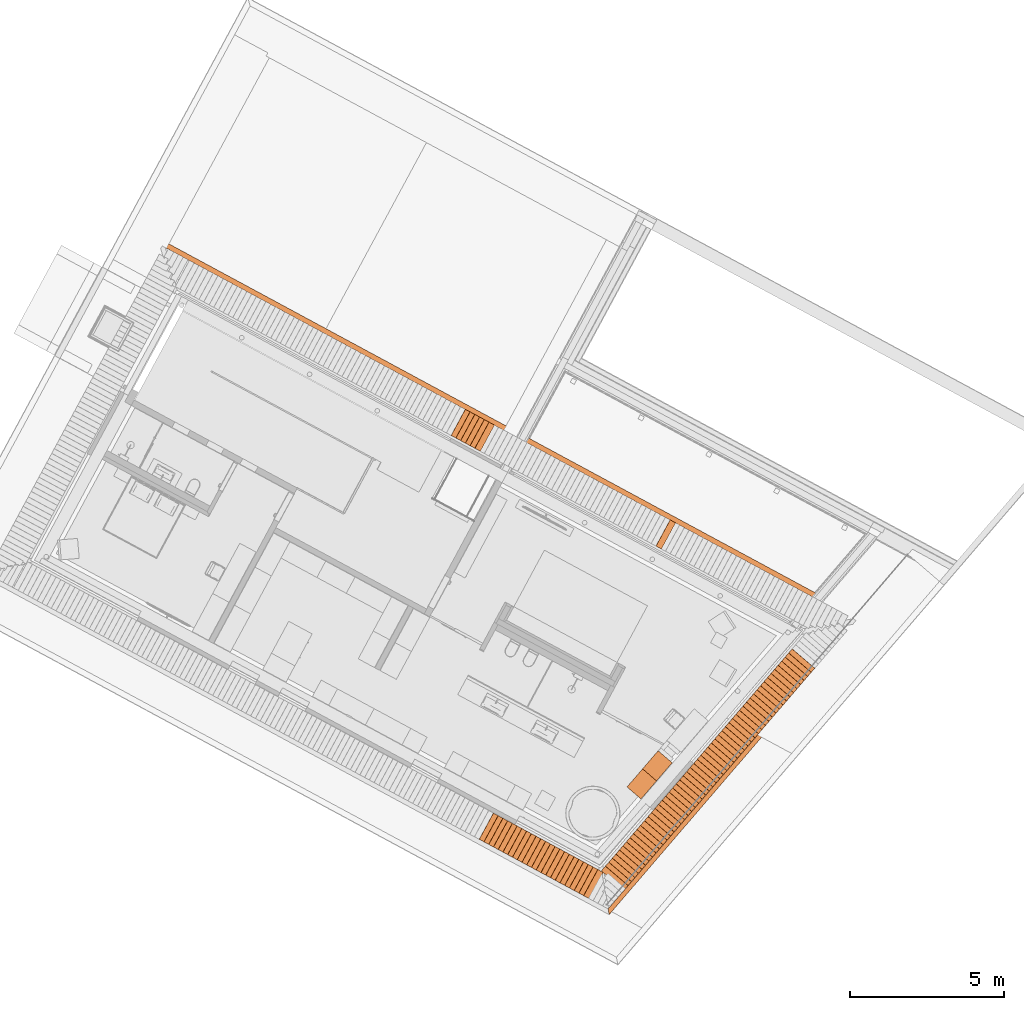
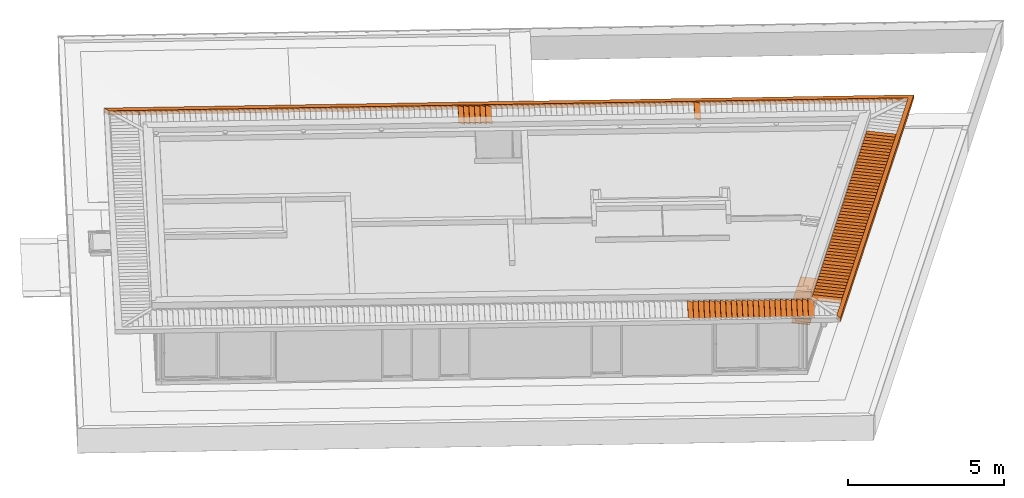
# One storey, part 36 of 48: 87 proxies.
"""IFC2X3 building model written with IfcOpenShell, lengths in metres."""

import ifcopenshell
import ifcopenshell.guid

model = None  # the IFC model being written
_history = None  # IfcOwnerHistory: only IFC2X3 demands one
_inside = {}  # id of a spatial element -> (the spatial element, [elements in it])
_under = {}  # id of a project, library or spatial element -> (it, [spatial elements below it])
_declared = {}  # id of a project -> (the project, [libraries it declares])
_typed = {}  # id of a type object -> (the type object, [elements of that type])
_made_of = {}  # id of a material, layer set ... -> (it, [elements and type objects made of it])


def new_model(schema):
    """Start an empty IFC model of exactly this schema.

    Asked for "IFC4X3", IfcOpenShell would pick the latest addendum, in which some entities
    have other attributes; the version numbers below select the first issue.
    IFC2X3 requires an IfcOwnerHistory on every rooted entity: one is made here for all.
    """
    global model, _history
    if schema == "IFC4X3":
        model = ifcopenshell.file(schema_version=(4, 3, 0, 0))
    else:
        model = ifcopenshell.file(schema=schema)
    _inside.clear()
    _under.clear()
    _declared.clear()
    _typed.clear()
    _made_of.clear()
    _history = None
    if model.schema == "IFC2X3":
        org = make("IfcOrganization", Name="unknown")
        user = make(
            "IfcPersonAndOrganization",
            ThePerson=make("IfcPerson", FamilyName="unknown"),
            TheOrganization=org,
        )
        app = make(
            "IfcApplication",
            ApplicationDeveloper=org,
            Version="unknown",
            ApplicationFullName="unknown",
            ApplicationIdentifier="unknown",
        )
        _history = make(
            "IfcOwnerHistory",
            OwningUser=user,
            OwningApplication=app,
            ChangeAction="ADDED",
            CreationDate=0,
        )
    return model


def make(cls, **values):
    """One entity of the class cls with the attributes given. An attribute that is None is left unset."""
    return model.create_entity(
        cls, **{name: value for name, value in values.items() if value is not None}
    )


def entity(cls, *values):
    """Any entity or typed value of the class cls, its attributes in the order of the schema. None: left unset."""
    e = model.create_entity(cls)
    for i, value in enumerate(values):
        if value is not None:
            e[i] = value
    return e


def rooted(cls, **values):
    """An entity with a GlobalId (a new one), such as an element, a storey or a relation."""
    return make(cls, GlobalId=ifcopenshell.guid.new(), OwnerHistory=_history, **values)


def si_unit(unit_type, name, prefix=None):
    """IfcSIUnit, for example si_unit("LENGTHUNIT", "METRE", prefix="MILLI")."""
    return make("IfcSIUnit", UnitType=unit_type, Prefix=prefix, Name=name)


def converted_unit(unit_type, name, factor, base, dimensions=None, offset=None):
    """IfcConversionBasedUnit, such as the inch: factor (a typed value) times the base unit."""
    return make(
        "IfcConversionBasedUnit"
        if offset is None
        else "IfcConversionBasedUnitWithOffset",
        ConversionOffset=offset,
        Dimensions=None
        if dimensions is None
        else entity("IfcDimensionalExponents", *dimensions),
        UnitType=unit_type,
        Name=name,
        ConversionFactor=make(
            "IfcMeasureWithUnit", ValueComponent=factor, UnitComponent=base
        ),
    )


def derived_unit(unit_type, elements):
    """IfcDerivedUnit: a product of units, each with its exponent."""
    return make(
        "IfcDerivedUnit",
        Elements=[
            make("IfcDerivedUnitElement", Unit=unit, Exponent=power)
            for unit, power in elements
        ],
        UnitType=unit_type,
    )


def money_unit(currency):
    """IfcMonetaryUnit."""
    return make("IfcMonetaryUnit", Currency=currency)


def assignment(units):
    """IfcUnitAssignment: the units of a project."""
    return None if units is None else make("IfcUnitAssignment", Units=units)


def point(xyz):
    """IfcCartesianPoint."""
    return None if xyz is None else make("IfcCartesianPoint", Coordinates=xyz)


def direction(xyz):
    """IfcDirection."""
    return None if xyz is None else make("IfcDirection", DirectionRatios=xyz)


def frame(location, z_axis=None, x_axis=None):
    """IfcAxis2Placement3D, a coordinate frame: its origin and axes. An axis left out is left unset."""
    return make(
        "IfcAxis2Placement3D",
        Location=point(location),
        Axis=direction(z_axis),
        RefDirection=direction(x_axis),
    )


def origin_with_axes():
    """The frame at (0, 0, 0) with the z axis (0, 0, 1) and the x axis (1, 0, 0) written out."""
    return frame((0.0, 0.0, 0.0), z_axis=(0.0, 0.0, 1.0), x_axis=(1.0, 0.0, 0.0))


def place(relative_to, where):
    """IfcLocalPlacement: puts the frame where relative to a parent placement (None: the world)."""
    return make(
        "IfcLocalPlacement", PlacementRelTo=relative_to, RelativePlacement=where
    )


def context(
    kind, dimensions, precision=None, world=None, true_north=None, identifier=None
):
    """IfcGeometricRepresentationContext, for example the 3D "Model" context."""
    return make(
        "IfcGeometricRepresentationContext",
        ContextIdentifier=identifier,
        ContextType=kind,
        CoordinateSpaceDimension=dimensions,
        Precision=precision,
        WorldCoordinateSystem=world,
        TrueNorth=true_north,
    )


def subcontext(parent, identifier, kind, view, scale=None):
    """IfcGeometricRepresentationSubContext, for example "Body" below "Model"."""
    return make(
        "IfcGeometricRepresentationSubContext",
        ContextIdentifier=identifier,
        ContextType=kind,
        ParentContext=parent,
        TargetScale=scale,
        TargetView=view,
    )


def project(units=None, contexts=None):
    """IfcProject with its units and contexts."""
    return rooted(
        "IfcProject",
        Name="project",
        RepresentationContexts=contexts,
        UnitsInContext=assignment(units),
    )


def spatial(cls, under=None, at=None, **own):
    """A site, building, storey or space (cls), placed at a placement, below another one or the project."""
    s = rooted(cls, ObjectPlacement=at, **own)
    if under is not None:
        _under.setdefault(under.id(), (under, []))[1].append(s)
    return s


def polyline(points):
    """IfcPolyline through the points."""
    return make("IfcPolyline", Points=[point(p) for p in points])


def outline(outer, holes=None, kind="AREA"):
    """IfcArbitraryClosedProfileDef: a profile drawn as a closed curve; with holes, ...WithVoids."""
    if holes is None:
        return make("IfcArbitraryClosedProfileDef", ProfileType=kind, OuterCurve=outer)
    return make(
        "IfcArbitraryProfileDefWithVoids",
        ProfileType=kind,
        OuterCurve=outer,
        InnerCurves=holes,
    )


def extrude(swept, where, along, depth):
    """IfcExtrudedAreaSolid: the profile swept, set in the frame where, extruded along a direction by depth."""
    return make(
        "IfcExtrudedAreaSolid",
        SweptArea=swept,
        Position=where,
        ExtrudedDirection=direction(along),
        Depth=depth,
    )


def faces_of(points, faces, orient=None, outer=None):
    """IfcFace entities. A face is a list of loops; a loop is a list of indices into points, from 0.

    orient and outer hold one flag for each loop. By default every Orientation is true, the
    first loop of a face is its IfcFaceOuterBound and the others are IfcFaceBound.
    """
    made = []
    for i, loops in enumerate(faces):
        bounds = []
        for j, loop in enumerate(loops):
            is_outer = j == 0 if outer is None else outer[i][j]
            bounds.append(
                make(
                    "IfcFaceOuterBound" if is_outer else "IfcFaceBound",
                    Bound=make("IfcPolyLoop", Polygon=[points[k] for k in loop]),
                    Orientation=True if orient is None else orient[i][j],
                )
            )
        made.append(make("IfcFace", Bounds=bounds))
    return made


def open_shell(faces, orient=None, outer=None):
    """The faces of one IfcOpenShell. surface_model builds it on its shared points."""
    return ("IfcOpenShell", faces, orient, outer)


def faceted_brep(points, faces, orient=None, outer=None, voids=None):
    """IfcFacetedBrep: a solid bounded by flat faces; with voids (closed shells), ...WithVoids."""
    shared = [point(p) for p in points]
    hull = make("IfcClosedShell", CfsFaces=faces_of(shared, faces, orient, outer))
    if voids is None:
        return make("IfcFacetedBrep", Outer=hull)
    return make(
        "IfcFacetedBrepWithVoids",
        Outer=hull,
        Voids=[
            make(cls, CfsFaces=faces_of(shared, fs, o, b)) for cls, fs, o, b in voids
        ],
    )


def surface_model(cls, points, shells):
    """IfcFaceBasedSurfaceModel or IfcShellBasedSurfaceModel (cls): surfaces that need not close."""
    shared = [point(p) for p in points]
    made = [make(c, CfsFaces=faces_of(shared, fs, o, b)) for c, fs, o, b in shells]
    if cls == "IfcFaceBasedSurfaceModel":
        return make(cls, FbsmFaces=made)
    return make(cls, SbsmBoundary=made)


def shape(context_of_items, identifier, shape_type, items):
    """IfcShapeRepresentation: the items that make up one representation, for example the "Body"."""
    return make(
        "IfcShapeRepresentation",
        ContextOfItems=context_of_items,
        RepresentationIdentifier=identifier,
        RepresentationType=shape_type,
        Items=items,
    )


def source(mapping_origin, context_of_items, identifier, shape_type, items):
    """IfcRepresentationMap: a shape defined once, which mapped items show again and again."""
    return make(
        "IfcRepresentationMap",
        MappingOrigin=mapping_origin,
        MappedRepresentation=shape(context_of_items, identifier, shape_type, items),
    )


def transform(
    local_origin,
    x_axis=None,
    y_axis=None,
    z_axis=None,
    scale=None,
    scale2=None,
    scale3=None,
    uniform=True,
):
    """IfcCartesianTransformationOperator3D, or its non-uniform kind. x_axis, y_axis, z_axis: its Axis1, 2, 3."""
    if uniform:
        return make(
            "IfcCartesianTransformationOperator3D",
            Axis1=direction(x_axis),
            Axis2=direction(y_axis),
            LocalOrigin=point(local_origin),
            Scale=scale,
            Axis3=direction(z_axis),
        )
    return make(
        "IfcCartesianTransformationOperator3DnonUniform",
        Axis1=direction(x_axis),
        Axis2=direction(y_axis),
        LocalOrigin=point(local_origin),
        Scale=scale,
        Axis3=direction(z_axis),
        Scale2=scale2,
        Scale3=scale3,
    )


def mapped(mapping_source, mapping_target):
    """IfcMappedItem: shows the shape of a source again, moved by a transform."""
    return make(
        "IfcMappedItem", MappingSource=mapping_source, MappingTarget=mapping_target
    )


def material(Name=None, Category=None):
    """IfcMaterial."""
    return make("IfcMaterial", Name=Name, Category=Category)


def material_list(materials):
    """IfcMaterialList."""
    return make("IfcMaterialList", Materials=materials)


def made_of(thing, what):
    """Note that an element or type object is made of a material, layer set ...; save() writes the relation."""
    if what is not None:
        _made_of.setdefault(what.id(), (what, []))[1].append(thing)
    return thing


def type_object(cls, material=None, **own):
    """A type object (cls), such as IfcWallType, which elements share."""
    return made_of(rooted(cls, **own), material)


def element(
    cls,
    number,
    at=None,
    inside=None,
    cuts=None,
    type_object=None,
    material=None,
    context=None,
    identifier="Body",
    shape_type=None,
    held_by="IfcProductDefinitionShape",
    body=None,
    shapes=None,
    **own,
):
    """One element of the class cls, such as IfcWall. Its Tag is "e" and its number.

    at: its placement. inside: the storey or other place that contains it. cuts: it is an
    opening in that element (IfcRelVoidsElement). A single representation is given by context,
    identifier, shape_type and body (its items); several are given by shapes. held_by: the class
    of the entity that holds the representations. save() writes the other relations.
    """
    e = rooted(cls, Tag="e%d" % number, ObjectPlacement=at, **own)
    if body is not None:
        shapes = [shape(context, identifier, shape_type, body)]
    if shapes is not None:
        e.Representation = make(held_by, Representations=shapes)
    if inside is not None:
        _inside.setdefault(inside.id(), (inside, []))[1].append(e)
    if cuts is not None:
        rooted(
            "IfcRelVoidsElement", RelatingBuildingElement=cuts, RelatedOpeningElement=e
        )
    if type_object is not None:
        _typed.setdefault(type_object.id(), (type_object, []))[1].append(e)
    return made_of(e, material)


def aggregate(whole, parts):
    """IfcRelAggregates: a whole, such as a stair, and the parts it consists of."""
    return rooted("IfcRelAggregates", RelatingObject=whole, RelatedObjects=parts)


def save(model, path):
    """Write the relations noted so far, then the file.

    IfcRelAggregates (storeys below a building ...), IfcRelContainedInSpatialStructure (elements
    in a storey), IfcRelDefinesByType, IfcRelAssociatesMaterial and IfcRelDeclares: one each for
    every whole, place, type object, material and project.
    """
    for whole, parts in _under.values():
        aggregate(whole, parts)
    for where, things in _inside.values():
        rooted(
            "IfcRelContainedInSpatialStructure",
            RelatedElements=things,
            RelatingStructure=where,
        )
    for kind, things in _typed.values():
        rooted("IfcRelDefinesByType", RelatedObjects=things, RelatingType=kind)
    for what, things in _made_of.values():
        rooted("IfcRelAssociatesMaterial", RelatedObjects=things, RelatingMaterial=what)
    for by, libraries in _declared.values():
        rooted("IfcRelDeclares", RelatingContext=by, RelatedDefinitions=libraries)
    model.write(path)


model = new_model("IFC2X3")

# Units and contexts
model_context = context("Model", 3, precision=1e-05, world=origin_with_axes(), true_north=direction((0.0, 1.0)))
body_context = subcontext(model_context, "Body", "Model", "MODEL_VIEW")
ifc_project = project(units=[si_unit("LENGTHUNIT", "METRE"), si_unit("AREAUNIT", "SQUARE_METRE"), si_unit("VOLUMEUNIT", "CUBIC_METRE"), converted_unit("PLANEANGLEUNIT", "DEGREE", entity("IfcPlaneAngleMeasure", 0.0174532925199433), si_unit("PLANEANGLEUNIT", "RADIAN"), dimensions=[0, 0, 0, 0, 0, 0, 0]), money_unit("EUR"), converted_unit("TIMEUNIT", "Year", entity("IfcTimeMeasure", 31556926.0), si_unit("TIMEUNIT", "SECOND"), dimensions=[0, 0, 1, 0, 0, 0, 0]), si_unit("MASSUNIT", "GRAM", prefix="KILO"), si_unit("THERMODYNAMICTEMPERATUREUNIT", "DEGREE_CELSIUS"), si_unit("LUMINOUSINTENSITYUNIT", "LUMEN"), si_unit("ENERGYUNIT", "JOULE", prefix="MEGA"), derived_unit("THERMALCONDUCTANCEUNIT", [(si_unit("POWERUNIT", "WATT"), 1), (si_unit("LENGTHUNIT", "METRE"), -1), (si_unit("THERMODYNAMICTEMPERATUREUNIT", "KELVIN"), -1)]), derived_unit("SPECIFICHEATCAPACITYUNIT", [(si_unit("ENERGYUNIT", "JOULE"), 1), (si_unit("MASSUNIT", "GRAM", prefix="KILO"), -1), (si_unit("THERMODYNAMICTEMPERATUREUNIT", "KELVIN"), -1)]), derived_unit("MASSDENSITYUNIT", [(si_unit("MASSUNIT", "GRAM", prefix="KILO"), 1), (si_unit("VOLUMEUNIT", "CUBIC_METRE"), -1)])], contexts=[model_context])

# Site, building, storey
site_placement = place(None, frame((-3.949935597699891, 1.740105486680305, 0.0), z_axis=(0.0, 0.0, 1.0), x_axis=(0.8799804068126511, -0.475009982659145, 0.0)))
site = spatial("IfcSite", under=ifc_project, at=site_placement, Name="Gelände", CompositionType="ELEMENT")
building_placement = place(site_placement, origin_with_axes())
building = spatial("IfcBuilding", under=site, at=building_placement, Name="Gebäude", CompositionType="ELEMENT")
storey_placement = place(building_placement, frame((0.0, 0.0, 4.55), z_axis=(0.0, 0.0, 1.0), x_axis=(1.0, 0.0, 0.0)))
storey = spatial("IfcBuildingStorey", under=building, at=storey_placement, Name="Staffelgeschoss", CompositionType="ELEMENT", Elevation=4.55)

# Proxies
ifc_material_1 = material(Name="ALLGEMEIN - BAUTEIL")
building_element_proxy_type_1 = type_object("IfcBuildingElementProxyType", Name="ALLGEMEIN - BAUTEIL", PredefinedType="NOTDEFINED")
shared_shape_1 = source(origin_with_axes(), body_context, "Body", "Brep", [
    faceted_brep([(0.2148913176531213, -0.9669323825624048, 0.0), (0.0, -0.9669000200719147, 0.0), (0.0, 0.0, 0.0), (0.2150369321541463, -3.238441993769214e-05, 0.0), (0.2148913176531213, -0.9669323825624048, 0.009999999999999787), (0.0, -0.9669000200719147, 0.009999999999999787), (0.0, 0.0, 0.009999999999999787), (0.2150369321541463, -3.238441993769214e-05, 0.009999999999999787)], [[[0, 1, 2, 3]], [[1, 0, 4, 5]], [[5, 6, 2, 1]], [[6, 7, 3, 2]], [[4, 0, 3, 7]], [[6, 5, 4, 7]]]),
])
for number, where, z_axis, x_axis, name in (
    (1, (29.00400020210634, 9.499252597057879, 2.903466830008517), (-0.07623058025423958, -0.3492978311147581, 0.933905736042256), (-0.1991281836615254, -0.9124296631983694, -0.3575193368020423), "Morph-037"),
    (2, (29.04130504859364, 9.670187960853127, 2.903466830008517), (-0.07623058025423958, -0.3492978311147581, 0.933905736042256), (-0.1991281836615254, -0.9124296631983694, -0.3575193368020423), "Morph-037"),
    (3, (29.07860989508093, 9.841123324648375, 2.903466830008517), (-0.07623058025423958, -0.3492978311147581, 0.933905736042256), (-0.1991281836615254, -0.9124296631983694, -0.3575193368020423), "Morph-037"),
    (4, (28.92939050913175, 9.157381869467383, 2.903466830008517), (-0.07623058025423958, -0.3492978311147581, 0.933905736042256), (-0.1991281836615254, -0.9124296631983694, -0.3575193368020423), "Morph-037"),
    (5, (27.17198807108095, 1.104900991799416, 2.903466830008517), (-0.07623058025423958, -0.3492978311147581, 0.933905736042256), (-0.1991281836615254, -0.9124296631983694, -0.3575193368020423), "Morph-037"),
    (6, (27.20784988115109, 1.269224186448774, 2.903466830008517), (-0.07623058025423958, -0.3492978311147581, 0.933905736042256), (-0.1991281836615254, -0.9124296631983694, -0.3575193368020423), "Morph-037"),
    (7, (27.54359349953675, 2.807642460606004, 2.903466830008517), (-0.07623058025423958, -0.3492978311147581, 0.933905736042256), (-0.1991281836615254, -0.9124296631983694, -0.3575193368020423), "Morph-037"),
    (8, (27.24515472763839, 1.440159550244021, 2.903466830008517), (-0.07623058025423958, -0.3492978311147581, 0.933905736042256), (-0.1991281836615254, -0.9124296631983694, -0.3575193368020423), "Morph-037"),
    (9, (27.28245957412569, 1.61109491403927, 2.903466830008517), (-0.07623058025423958, -0.3492978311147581, 0.933905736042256), (-0.1991281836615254, -0.9124296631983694, -0.3575193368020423), "Morph-037"),
    (10, (27.35706926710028, 1.952965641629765, 2.903466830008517), (-0.07623058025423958, -0.3492978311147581, 0.933905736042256), (-0.1991281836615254, -0.9124296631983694, -0.3575193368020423), "Morph-037"),
    (11, (27.31976442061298, 1.782030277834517, 2.903466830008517), (-0.07623058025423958, -0.3492978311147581, 0.933905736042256), (-0.1991281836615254, -0.9124296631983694, -0.3575193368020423), "Morph-037"),
    (12, (27.43167896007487, 2.29483636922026, 2.903466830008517), (-0.07623058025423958, -0.3492978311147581, 0.933905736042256), (-0.1991281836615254, -0.9124296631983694, -0.3575193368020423), "Morph-037"),
    (13, (27.39437411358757, 2.123901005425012, 2.903466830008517), (-0.07623058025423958, -0.3492978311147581, 0.933905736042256), (-0.1991281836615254, -0.9124296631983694, -0.3575193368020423), "Morph-037"),
    (14, (27.50628865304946, 2.636707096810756, 2.903466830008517), (-0.07623058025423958, -0.3492978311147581, 0.933905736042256), (-0.1991281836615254, -0.9124296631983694, -0.3575193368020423), "Morph-037"),
    (15, (27.46898380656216, 2.465771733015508, 2.903466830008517), (-0.07623058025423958, -0.3492978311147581, 0.933905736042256), (-0.1991281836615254, -0.9124296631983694, -0.3575193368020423), "Morph-037"),
    (16, (27.58641603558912, 3.00370877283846, 2.903466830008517), (-0.07623058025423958, -0.3492978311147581, 0.933905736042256), (-0.1991281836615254, -0.9124296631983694, -0.3575193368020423), "Morph-037"),
    (17, (27.62372088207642, 3.174644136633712, 2.903466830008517), (-0.07623058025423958, -0.3492978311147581, 0.933905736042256), (-0.1991281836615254, -0.9124296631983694, -0.3575193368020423), "Morph-037"),
    (18, (27.66102572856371, 3.345579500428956, 2.903466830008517), (-0.07623058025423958, -0.3492978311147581, 0.933905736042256), (-0.1991281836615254, -0.9124296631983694, -0.3575193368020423), "Morph-037"),
    (19, (27.69833057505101, 3.516514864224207, 2.903466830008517), (-0.07623058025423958, -0.3492978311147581, 0.933905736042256), (-0.1991281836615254, -0.9124296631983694, -0.3575193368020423), "Morph-037"),
    (20, (27.7356354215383, 3.687450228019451, 2.903466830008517), (-0.07623058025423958, -0.3492978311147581, 0.933905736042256), (-0.1991281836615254, -0.9124296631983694, -0.3575193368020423), "Morph-037"),
    (21, (27.7729402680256, 3.858385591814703, 2.903466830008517), (-0.07623058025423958, -0.3492978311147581, 0.933905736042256), (-0.1991281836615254, -0.9124296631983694, -0.3575193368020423), "Morph-037"),
    (22, (27.81024511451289, 4.029320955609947, 2.903466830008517), (-0.07623058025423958, -0.3492978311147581, 0.933905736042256), (-0.1991281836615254, -0.9124296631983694, -0.3575193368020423), "Morph-037"),
    (23, (27.84754996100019, 4.200256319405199, 2.903466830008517), (-0.07623058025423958, -0.3492978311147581, 0.933905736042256), (-0.1991281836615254, -0.9124296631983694, -0.3575193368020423), "Morph-037"),
    (24, (27.88485480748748, 4.371191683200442, 2.903466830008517), (-0.07623058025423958, -0.3492978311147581, 0.933905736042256), (-0.1991281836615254, -0.9124296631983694, -0.3575193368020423), "Morph-037"),
    (25, (27.92215965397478, 4.542127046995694, 2.903466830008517), (-0.07623058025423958, -0.3492978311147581, 0.933905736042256), (-0.1991281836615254, -0.9124296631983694, -0.3575193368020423), "Morph-037"),
    (26, (27.95946450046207, 4.713062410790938, 2.903466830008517), (-0.07623058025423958, -0.3492978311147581, 0.933905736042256), (-0.1991281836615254, -0.9124296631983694, -0.3575193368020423), "Morph-037"),
    (27, (27.99676934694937, 4.88399777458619, 2.903466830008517), (-0.07623058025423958, -0.3492978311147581, 0.933905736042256), (-0.1991281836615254, -0.9124296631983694, -0.3575193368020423), "Morph-037"),
    (28, (28.07137903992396, 5.225868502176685, 2.903466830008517), (-0.07623058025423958, -0.3492978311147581, 0.933905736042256), (-0.1991281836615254, -0.9124296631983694, -0.3575193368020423), "Morph-037"),
    (29, (28.03407419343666, 5.054933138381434, 2.903466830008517), (-0.07623058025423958, -0.3492978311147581, 0.933905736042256), (-0.1991281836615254, -0.9124296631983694, -0.3575193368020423), "Morph-037"),
    (30, (28.10868388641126, 5.396803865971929, 2.903466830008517), (-0.07623058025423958, -0.3492978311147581, 0.933905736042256), (-0.1991281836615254, -0.9124296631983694, -0.3575193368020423), "Morph-037"),
    (31, (28.22059842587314, 5.909609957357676, 2.903466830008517), (-0.07623058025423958, -0.3492978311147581, 0.933905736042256), (-0.1991281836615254, -0.9124296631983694, -0.3575193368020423), "Morph-037"),
    (32, (28.18329357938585, 5.738674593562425, 2.903466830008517), (-0.07623058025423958, -0.3492978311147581, 0.933905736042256), (-0.1991281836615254, -0.9124296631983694, -0.3575193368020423), "Morph-037"),
    (33, (28.14598873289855, 5.567739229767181, 2.903466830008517), (-0.07623058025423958, -0.3492978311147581, 0.933905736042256), (-0.1991281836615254, -0.9124296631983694, -0.3575193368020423), "Morph-037"),
    (34, (28.25790327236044, 6.080545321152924, 2.903466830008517), (-0.07623058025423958, -0.3492978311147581, 0.933905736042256), (-0.1991281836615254, -0.9124296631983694, -0.3575193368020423), "Morph-037"),
    (35, (28.29520811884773, 6.251480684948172, 2.903466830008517), (-0.07623058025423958, -0.3492978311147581, 0.933905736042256), (-0.1991281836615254, -0.9124296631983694, -0.3575193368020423), "Morph-037"),
    (36, (28.33251296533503, 6.422416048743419, 2.903466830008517), (-0.07623058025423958, -0.3492978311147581, 0.933905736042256), (-0.1991281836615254, -0.9124296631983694, -0.3575193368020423), "Morph-037"),
    (37, (28.36981781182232, 6.593351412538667, 2.903466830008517), (-0.07623058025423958, -0.3492978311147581, 0.933905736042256), (-0.1991281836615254, -0.9124296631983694, -0.3575193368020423), "Morph-037"),
    (38, (28.40712265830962, 6.764286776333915, 2.903466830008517), (-0.07623058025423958, -0.3492978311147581, 0.933905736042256), (-0.1991281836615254, -0.9124296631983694, -0.3575193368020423), "Morph-037"),
    (39, (28.48173235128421, 7.10615750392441, 2.903466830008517), (-0.07623058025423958, -0.3492978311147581, 0.933905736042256), (-0.1991281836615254, -0.9124296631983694, -0.3575193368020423), "Morph-037"),
    (40, (28.44442750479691, 6.935222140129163, 2.903466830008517), (-0.07623058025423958, -0.3492978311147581, 0.933905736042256), (-0.1991281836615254, -0.9124296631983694, -0.3575193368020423), "Morph-037"),
    (41, (28.5563420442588, 7.448028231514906, 2.903466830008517), (-0.07623058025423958, -0.3492978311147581, 0.933905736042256), (-0.1991281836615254, -0.9124296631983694, -0.3575193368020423), "Morph-037"),
    (42, (28.5190371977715, 7.277092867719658, 2.903466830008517), (-0.07623058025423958, -0.3492978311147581, 0.933905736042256), (-0.1991281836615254, -0.9124296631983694, -0.3575193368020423), "Morph-037"),
    (43, (28.63095173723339, 7.789898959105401, 2.903466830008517), (-0.07623058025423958, -0.3492978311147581, 0.933905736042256), (-0.1991281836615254, -0.9124296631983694, -0.3575193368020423), "Morph-037"),
    (44, (28.59364689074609, 7.618963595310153, 2.903466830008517), (-0.07623058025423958, -0.3492978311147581, 0.933905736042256), (-0.1991281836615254, -0.9124296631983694, -0.3575193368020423), "Morph-037"),
    (45, (28.66825658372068, 7.96083432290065, 2.903466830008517), (-0.07623058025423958, -0.3492978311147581, 0.933905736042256), (-0.1991281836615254, -0.9124296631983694, -0.3575193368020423), "Morph-037"),
    (46, (28.70556143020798, 8.131769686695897, 2.903466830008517), (-0.07623058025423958, -0.3492978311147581, 0.933905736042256), (-0.1991281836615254, -0.9124296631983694, -0.3575193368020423), "Morph-037"),
    (47, (28.74286627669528, 8.302705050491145, 2.903466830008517), (-0.07623058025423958, -0.3492978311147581, 0.933905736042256), (-0.1991281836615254, -0.9124296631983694, -0.3575193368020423), "Morph-037"),
    (48, (28.78017112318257, 8.473640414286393, 2.903466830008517), (-0.07623058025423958, -0.3492978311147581, 0.933905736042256), (-0.1991281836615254, -0.9124296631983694, -0.3575193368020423), "Morph-037"),
    (49, (28.85478081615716, 8.815511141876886, 2.903466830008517), (-0.07623058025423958, -0.3492978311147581, 0.933905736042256), (-0.1991281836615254, -0.9124296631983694, -0.3575193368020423), "Morph-037"),
    (50, (28.81747596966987, 8.644575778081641, 2.903466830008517), (-0.07623058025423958, -0.3492978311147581, 0.933905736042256), (-0.1991281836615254, -0.9124296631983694, -0.3575193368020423), "Morph-037"),
    (51, (28.96669535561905, 9.32831723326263, 2.903466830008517), (-0.07623058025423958, -0.3492978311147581, 0.933905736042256), (-0.1991281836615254, -0.9124296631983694, -0.3575193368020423), "Morph-037"),
    (52, (28.89208566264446, 8.986446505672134, 2.903466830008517), (-0.07623058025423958, -0.3492978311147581, 0.933905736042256), (-0.1991281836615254, -0.9124296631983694, -0.3575193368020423), "Morph-037"),
    (53, (22.21068781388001, 1.096892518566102, 2.903466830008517), (0.3575193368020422, 0.0, 0.933905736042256), (0.933905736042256, 0.0, -0.3575193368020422), "Morph-037"),
    (54, (22.38564652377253, 1.096892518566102, 2.903466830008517), (0.3575193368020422, 0.0, 0.933905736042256), (0.933905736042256, 0.0, -0.3575193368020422), "Morph-037"),
    (55, (22.56060523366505, 1.096892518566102, 2.903466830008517), (0.3575193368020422, 0.0, 0.933905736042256), (0.933905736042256, 0.0, -0.3575193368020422), "Morph-037"),
    (56, (22.91052265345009, 1.096892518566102, 2.903466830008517), (0.3575193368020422, 0.0, 0.933905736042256), (0.933905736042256, 0.0, -0.3575193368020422), "Morph-037"),
    (57, (22.73556394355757, 1.096892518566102, 2.903466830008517), (0.3575193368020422, 0.0, 0.933905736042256), (0.933905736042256, 0.0, -0.3575193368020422), "Morph-037"),
    (58, (23.08548136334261, 1.096892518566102, 2.903466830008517), (0.3575193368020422, 0.0, 0.933905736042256), (0.933905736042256, 0.0, -0.3575193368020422), "Morph-037"),
    (59, (23.26044007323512, 1.096892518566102, 2.903466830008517), (0.3575193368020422, 0.0, 0.933905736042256), (0.933905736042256, 0.0, -0.3575193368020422), "Morph-037"),
    (60, (23.61035749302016, 1.096892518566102, 2.903466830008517), (0.3575193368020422, 0.0, 0.933905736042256), (0.933905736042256, 0.0, -0.3575193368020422), "Morph-037"),
    (61, (23.43539878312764, 1.096892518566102, 2.903466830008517), (0.3575193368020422, 0.0, 0.933905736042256), (0.933905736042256, 0.0, -0.3575193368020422), "Morph-037"),
    (62, (23.78531620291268, 1.096892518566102, 2.903466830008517), (0.3575193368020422, 0.0, 0.933905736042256), (0.933905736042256, 0.0, -0.3575193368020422), "Morph-037"),
    (63, (24.13523362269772, 1.096892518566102, 2.903466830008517), (0.3575193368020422, 0.0, 0.933905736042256), (0.933905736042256, 0.0, -0.3575193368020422), "Morph-037"),
    (64, (23.9602749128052, 1.096892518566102, 2.903466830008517), (0.3575193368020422, 0.0, 0.933905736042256), (0.933905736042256, 0.0, -0.3575193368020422), "Morph-037"),
    (65, (24.31019233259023, 1.096892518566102, 2.903466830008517), (0.3575193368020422, 0.0, 0.933905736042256), (0.933905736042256, 0.0, -0.3575193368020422), "Morph-037"),
    (66, (24.66010975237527, 1.096892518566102, 2.903466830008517), (0.3575193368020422, 0.0, 0.933905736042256), (0.933905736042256, 0.0, -0.3575193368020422), "Morph-037"),
    (67, (24.48515104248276, 1.096892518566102, 2.903466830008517), (0.3575193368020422, 0.0, 0.933905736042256), (0.933905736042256, 0.0, -0.3575193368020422), "Morph-037"),
    (68, (25.01002717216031, 1.096892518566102, 2.903466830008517), (0.3575193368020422, 0.0, 0.933905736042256), (0.933905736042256, 0.0, -0.3575193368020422), "Morph-037"),
    (69, (24.83506846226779, 1.096892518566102, 2.903466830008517), (0.3575193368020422, 0.0, 0.933905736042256), (0.933905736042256, 0.0, -0.3575193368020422), "Morph-037"),
    (70, (25.18498588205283, 1.096892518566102, 2.903466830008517), (0.3575193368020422, 0.0, 0.933905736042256), (0.933905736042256, 0.0, -0.3575193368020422), "Morph-037"),
    (71, (25.35994459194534, 1.096892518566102, 2.903466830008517), (0.3575193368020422, 0.0, 0.933905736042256), (0.933905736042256, 0.0, -0.3575193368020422), "Morph-037"),
    (72, (25.70986201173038, 1.096892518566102, 2.903466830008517), (0.3575193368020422, 0.0, 0.933905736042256), (0.933905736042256, 0.0, -0.3575193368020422), "Morph-037"),
    (73, (26.05977943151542, 1.096892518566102, 2.903466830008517), (0.3575193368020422, 0.0, 0.933905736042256), (0.933905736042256, 0.0, -0.3575193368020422), "Morph-037"),
    (74, (25.8848207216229, 1.096892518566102, 2.903466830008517), (0.3575193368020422, 0.0, 0.933905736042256), (0.933905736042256, 0.0, -0.3575193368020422), "Morph-037"),
    (75, (25.53490330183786, 1.096892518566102, 2.903466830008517), (0.3575193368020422, 0.0, 0.933905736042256), (0.933905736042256, 0.0, -0.3575193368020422), "Morph-037"),
    (76, (15.18839845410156, 12.18825268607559, 2.903466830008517), (0.3575193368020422, 0.0, 0.933905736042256), (0.933905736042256, 0.0, -0.3575193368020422), "Morph-037"),
    (77, (15.36335716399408, 12.18825268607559, 2.903466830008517), (0.3575193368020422, 0.0, 0.933905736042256), (0.933905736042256, 0.0, -0.3575193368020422), "Morph-037"),
    (78, (15.71327458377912, 12.18825268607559, 2.903466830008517), (0.3575193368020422, 0.0, 0.933905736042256), (0.933905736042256, 0.0, -0.3575193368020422), "Morph-037"),
    (79, (15.5383158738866, 12.18825268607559, 2.903466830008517), (0.3575193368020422, 0.0, 0.933905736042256), (0.933905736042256, 0.0, -0.3575193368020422), "Morph-037"),
    (80, (15.88823329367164, 12.18825268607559, 2.903466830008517), (0.3575193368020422, 0.0, 0.933905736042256), (0.933905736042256, 0.0, -0.3575193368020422), "Morph-037"),
    (81, (16.06319200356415, 12.18825268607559, 2.903466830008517), (0.3575193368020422, 0.0, 0.933905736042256), (0.933905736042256, 0.0, -0.3575193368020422), "Morph-037"),
    (82, (22.73735250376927, 12.1882203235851, 2.903466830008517), (0.3575193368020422, 0.0, 0.933905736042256), (0.933905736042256, 0.0, -0.3575193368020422), "Morph-037"),
    (83, (29.15321958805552, 10.18299405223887, 2.903466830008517), (-0.07623058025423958, -0.3492978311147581, 0.933905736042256), (-0.1991281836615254, -0.9124296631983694, -0.3575193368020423), "Morph-037"),
    (84, (29.11591474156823, 10.01205868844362, 2.903466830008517), (-0.07623058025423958, -0.3492978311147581, 0.933905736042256), (-0.1991281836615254, -0.9124296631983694, -0.3575193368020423), "Morph-037"),
):
    element("IfcBuildingElementProxy", number, at=place(storey_placement, frame(where, z_axis=z_axis, x_axis=x_axis)), inside=storey, type_object=building_element_proxy_type_1, material=ifc_material_1, Name=name, context=body_context, shape_type="MappedRepresentation", body=[
        mapped(shared_shape_1, transform((0.0, 0.0, 0.0))),
    ])
building_element_proxy_type_2 = type_object("IfcBuildingElementProxyType", Name="Kamin freistehend 22", PredefinedType="NOTDEFINED")
shared_shape_2 = source(origin_with_axes(), body_context, "Body", "SurfaceModel", [
    faceted_brep([(0.0, 0.0, 0.0), (0.0, 0.0, 0.02), (-0.7741797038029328, 0.0, 0.02), (-0.7741797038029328, 0.0, 0.0), (0.0, 0.6, 0.0), (0.0, 0.6, 0.02), (-0.7741797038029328, 0.6, 0.02), (-0.7741797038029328, 0.6, 0.0)], [[[0, 1, 2, 3]], [[4, 5, 1, 0]], [[1, 5, 6, 2]], [[3, 2, 6, 7]], [[0, 3, 7, 4]], [[7, 6, 5, 4]]]),
    faceted_brep([(-0.1146932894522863, 0.6, 0.02), (-0.1146932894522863, 0.6, 0.2), (-0.1146932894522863, 0.1090909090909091, 0.2), (-0.1146932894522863, 0.1090909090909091, 0.02), (-0.6594864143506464, 0.6, 0.02), (-0.6594864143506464, 0.6, 0.2), (-0.6594864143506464, 0.1090909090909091, 0.2), (-0.6021397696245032, 0.1090909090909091, 0.2), (-0.6021397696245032, 0.5454545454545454, 0.2), (-0.1720399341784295, 0.5454545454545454, 0.2), (-0.1720399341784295, 0.1090909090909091, 0.2), (-0.1720399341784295, 0.1090909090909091, 0.02), (-0.1720399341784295, 0.5454545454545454, 0.02), (-0.6021397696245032, 0.5454545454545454, 0.02), (-0.6021397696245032, 0.1090909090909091, 0.02), (-0.6594864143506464, 0.1090909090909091, 0.02)], [[[0, 1, 2, 3]], [[4, 5, 1, 0]], [[1, 5, 6, 7, 8, 9, 10, 2]], [[3, 2, 10, 11]], [[0, 3, 11, 12, 13, 14, 15, 4]], [[15, 6, 5, 4]], [[14, 7, 6, 15]], [[13, 8, 7, 14]], [[12, 9, 8, 13]], [[11, 10, 9, 12]]]),
    faceted_brep([(-0.6021397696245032, 0.1418181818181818, 0.02), (-0.6021397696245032, 0.1418181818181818, 0.2), (-0.6021397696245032, 0.1963636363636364, 0.2), (-0.6021397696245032, 0.1963636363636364, 0.02), (-0.1720399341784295, 0.1418181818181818, 0.02), (-0.1720399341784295, 0.1418181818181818, 0.2), (-0.1720399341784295, 0.1963636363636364, 0.2), (-0.1720399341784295, 0.1963636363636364, 0.02)], [[[0, 1, 2, 3]], [[4, 5, 1, 0]], [[1, 5, 6, 2]], [[3, 2, 6, 7]], [[0, 3, 7, 4]], [[7, 6, 5, 4]]]),
    faceted_brep([(-0.08028530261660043, 0.08727272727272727, 0.25), (-0.08028530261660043, 0.08727272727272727, 0.7), (-0.6938944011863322, 0.08727272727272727, 0.7), (-0.6938944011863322, 0.08727272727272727, 0.25), (-0.1376319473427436, 0.08727272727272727, 0.6000000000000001), (-0.1376319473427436, 0.08727272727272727, 0.35), (-0.6365477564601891, 0.08727272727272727, 0.35), (-0.6365477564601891, 0.08727272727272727, 0.6000000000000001), (-0.08028530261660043, 0.1418181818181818, 0.25), (-0.08028530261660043, 0.1418181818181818, 0.7), (-0.6938944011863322, 0.1418181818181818, 0.7), (-0.6938944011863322, 0.1418181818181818, 0.25), (-0.1376319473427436, 0.1418181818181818, 0.6000000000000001), (-0.1376319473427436, 0.1418181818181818, 0.35), (-0.6365477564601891, 0.1418181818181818, 0.35), (-0.6365477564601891, 0.1418181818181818, 0.6000000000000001)], [[[0, 1, 2, 3], [4, 5, 6, 7]], [[0, 8, 9, 1]], [[1, 9, 10, 2]], [[2, 10, 11, 3]], [[3, 11, 8, 0]], [[4, 12, 13, 5]], [[5, 13, 14, 6]], [[6, 14, 15, 7]], [[7, 15, 12, 4]], [[8, 11, 10, 9], [12, 15, 14, 13]]]),
    faceted_brep([(-0.1376319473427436, 0.09818181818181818, 0.35), (-0.1376319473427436, 0.09818181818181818, 0.6000000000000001), (-0.6365477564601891, 0.09818181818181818, 0.6000000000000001), (-0.6365477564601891, 0.09818181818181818, 0.35), (-0.1376319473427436, 0.12, 0.6000000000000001), (-0.1376319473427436, 0.12, 0.35), (-0.6365477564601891, 0.12, 0.6000000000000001), (-0.6365477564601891, 0.12, 0.35)], [[[0, 1, 2, 3]], [[4, 1, 0, 5]], [[6, 2, 1, 4]], [[7, 3, 2, 6]], [[5, 0, 3, 7]], [[5, 7, 6, 4]]]),
    faceted_brep([(0.0, 0.6, 0.7), (0.0, 0.6, 0.75), (0.0, 0.0, 0.75), (0.0, 0.0, 0.7), (-0.7741797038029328, 0.6, 0.7), (-0.7741797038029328, 0.6, 0.75), (-0.7741797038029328, 0.0, 0.75), (-0.7741797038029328, 0.0, 0.7)], [[[0, 1, 2, 3]], [[4, 5, 1, 0]], [[1, 5, 6, 2]], [[3, 2, 6, 7]], [[0, 3, 7, 4]], [[7, 6, 5, 4]]]),
    faceted_brep([(-0.02293865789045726, 0.02181818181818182, 0.2), (-0.02293865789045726, 0.02181818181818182, 0.7), (-0.08028530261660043, 0.02181818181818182, 0.7), (-0.08028530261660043, 0.02181818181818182, 0.2), (-0.02293865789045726, 0.6, 0.2), (-0.02293865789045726, 0.6, 0.7), (-0.7512410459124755, 0.6, 0.7), (-0.7512410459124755, 0.02181818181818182, 0.7), (-0.6938944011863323, 0.02181818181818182, 0.7), (-0.6938944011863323, 0.5454545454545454, 0.7), (-0.08028530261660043, 0.5454545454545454, 0.7), (-0.08028530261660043, 0.5454545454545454, 0.2), (-0.6938944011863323, 0.5454545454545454, 0.2), (-0.6938944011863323, 0.02181818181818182, 0.2), (-0.7512410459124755, 0.02181818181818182, 0.2), (-0.7512410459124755, 0.6, 0.2)], [[[0, 1, 2, 3]], [[4, 5, 1, 0]], [[1, 5, 6, 7, 8, 9, 10, 2]], [[3, 2, 10, 11]], [[0, 3, 11, 12, 13, 14, 15, 4]], [[15, 6, 5, 4]], [[14, 7, 6, 15]], [[13, 8, 7, 14]], [[12, 9, 8, 13]], [[11, 10, 9, 12]]]),
    faceted_brep([(-0.08028530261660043, 0.03272727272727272, 0.65), (-0.08028530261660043, 0.03272727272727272, 0.7000000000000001), (-0.6938944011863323, 0.03272727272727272, 0.7000000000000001), (-0.6938944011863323, 0.03272727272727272, 0.65), (-0.08028530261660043, 0.08727272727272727, 0.65), (-0.08028530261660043, 0.08727272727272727, 0.7000000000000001), (-0.6938944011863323, 0.08727272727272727, 0.7000000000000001), (-0.6938944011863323, 0.08727272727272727, 0.65)], [[[0, 1, 2, 3]], [[4, 5, 1, 0]], [[1, 5, 6, 2]], [[3, 2, 6, 7]], [[0, 3, 7, 4]], [[7, 6, 5, 4]]]),
    faceted_brep([(-0.08028530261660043, 0.5498181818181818, 0.2), (-0.08028530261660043, 0.5498181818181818, 0.25), (-0.08028530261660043, 0.08727272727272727, 0.25), (-0.08028530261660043, 0.08727272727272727, 0.2), (-0.6938944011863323, 0.5498181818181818, 0.2), (-0.6938944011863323, 0.5498181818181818, 0.25), (-0.6938944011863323, 0.08727272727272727, 0.25), (-0.6938944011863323, 0.08727272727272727, 0.2)], [[[0, 1, 2, 3]], [[4, 5, 1, 0]], [[1, 5, 6, 2]], [[3, 2, 6, 7]], [[0, 3, 7, 4]], [[7, 6, 5, 4]]]),
    faceted_brep([(-0.08028530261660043, 0.03272727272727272, 0.2), (-0.08028530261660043, 0.03272727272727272, 0.3), (-0.6938944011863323, 0.03272727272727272, 0.3), (-0.6938944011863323, 0.03272727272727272, 0.2), (-0.08028530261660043, 0.08727272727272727, 0.2), (-0.08028530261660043, 0.08727272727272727, 0.3), (-0.6938944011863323, 0.08727272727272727, 0.3), (-0.6938944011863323, 0.08727272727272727, 0.2)], [[[0, 1, 2, 3]], [[4, 5, 1, 0]], [[1, 5, 6, 2]], [[3, 2, 6, 7]], [[0, 3, 7, 4]], [[7, 6, 5, 4]]]),
    surface_model("IfcShellBasedSurfaceModel", [(-0.08028530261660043, 0.1418181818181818, 0.3), (-0.08028530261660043, 0.1418181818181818, 0.6000000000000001), (-0.6938944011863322, 0.1418181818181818, 0.6000000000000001), (-0.6938944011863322, 0.1418181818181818, 0.3)], [open_shell([[[0, 1, 2, 3]]])]),
])
for number, where, z_axis, x_axis, name in (
    (85, (25.78791806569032, 4.657476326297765, 0.0), (0.0, 0.0, 1.0), (-0.2133784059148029, -0.9769696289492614, 0.0), "Objekt-0070"),
    (86, (25.62272483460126, 3.901126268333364, 0.0), (0.0, 0.0, 1.0), (-0.2133784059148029, -0.9769696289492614, 0.0), "Objekt-0070"),
):
    element("IfcBuildingElementProxy", number, at=place(storey_placement, frame(where, z_axis=z_axis, x_axis=x_axis)), inside=storey, type_object=building_element_proxy_type_2, Name=name, context=body_context, shape_type="MappedRepresentation", body=[
        mapped(shared_shape_2, transform((0.0, 0.0, 0.0))),
    ])
ifc_material_2 = material(Name="Dämmung, hart EPS")
ifc_material_3 = material(Name="Sperrschicht, Folie")
ifc_material_4 = material(Name="Estrich")
ifc_material_5 = material(Name="Kleber")
ifc_material_6 = material(Name="Beton, Leichtbeton")
ifc_material_list = material_list([ifc_material_2, ifc_material_3, ifc_material_4, ifc_material_5, ifc_material_6])
building_element_proxy_type_3 = type_object("IfcBuildingElementProxyType", Name="BO | Dämmung 8+Folie+Estrich 7+Fliese 0,5 | 16cm 170", PredefinedType="NOTDEFINED")
proxy_placement = place(storey_placement, frame((26.9635319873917, 0.1300098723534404, 2.75), z_axis=(0.0, 0.0, 1.0), x_axis=(1.0, 0.0, 0.0)))
element("IfcBuildingElementProxy", 87, at=proxy_placement, inside=storey, type_object=building_element_proxy_type_3, material=ifc_material_list, Name="Decke040", context=body_context, shape_type="SweptSolid", body=[
    extrude(outline(polyline([(0.0, 0.0), (0.1163184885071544, -0.1488352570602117), (2.816183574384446, 12.21277836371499), (-23.08735351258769, 12.21279299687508), (-22.93965685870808, 12.05104782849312), (2.632032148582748, 12.05103344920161), (0.0, 0.0)])), origin_with_axes(), (0.0, 0.0, 1.0), 0.08),
    extrude(outline(polyline([(0.0, 0.0), (0.1163184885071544, -0.1488352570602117), (2.816183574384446, 12.21277836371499), (-23.08735351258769, 12.21279299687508), (-22.93965685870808, 12.05104782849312), (2.632032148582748, 12.05103344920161), (0.0, 0.0)])), frame((0.0, 0.0, 0.08), z_axis=(0.0, 0.0, 1.0), x_axis=(1.0, 0.0, 0.0)), (0.0, 0.0, 1.0), 0.0),
    extrude(outline(polyline([(0.0, 0.0), (0.1163184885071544, -0.1488352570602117), (2.816183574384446, 12.21277836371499), (-23.08735351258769, 12.21279299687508), (-22.93965685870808, 12.05104782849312), (2.632032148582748, 12.05103344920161), (0.0, 0.0)])), frame((0.0, 0.0, 0.08), z_axis=(0.0, 0.0, 1.0), x_axis=(1.0, 0.0, 0.0)), (0.0, 0.0, 1.0), 0.07),
    extrude(outline(polyline([(0.0, 0.0), (0.1163184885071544, -0.1488352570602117), (2.816183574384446, 12.21277836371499), (-23.08735351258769, 12.21279299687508), (-22.93965685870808, 12.05104782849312), (2.632032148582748, 12.05103344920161), (0.0, 0.0)])), frame((0.0, 0.0, 0.15), z_axis=(0.0, 0.0, 1.0), x_axis=(1.0, 0.0, 0.0)), (0.0, 0.0, 1.0), 0.01),
    extrude(outline(polyline([(0.0, 0.0), (0.1163184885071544, -0.1488352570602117), (2.816183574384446, 12.21277836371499), (-23.08735351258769, 12.21279299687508), (-22.93965685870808, 12.05104782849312), (2.632032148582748, 12.05103344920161), (0.0, 0.0)])), frame((0.0, 0.0, 0.16), z_axis=(0.0, 0.0, 1.0), x_axis=(1.0, 0.0, 0.0)), (0.0, 0.0, 1.0), 0.01),
])

save(model, "model.ifc")
